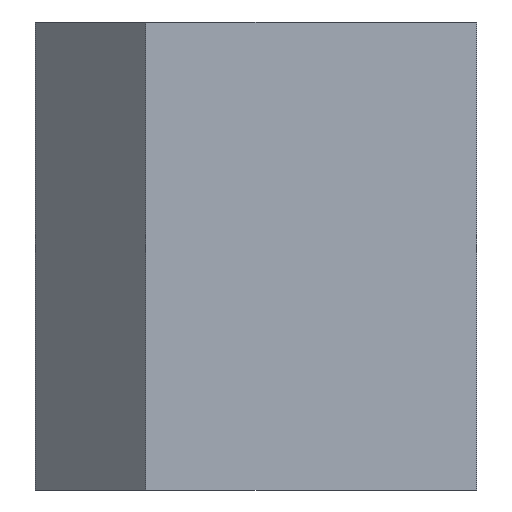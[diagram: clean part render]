
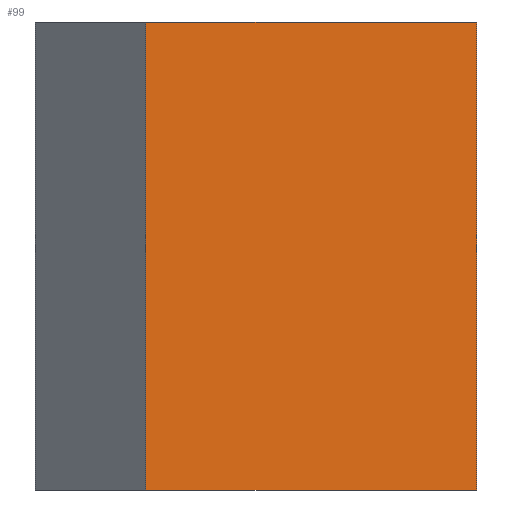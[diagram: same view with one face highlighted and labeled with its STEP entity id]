
A CAD part, front view. The second image highlights one B-rep face of the part: STEP entity #99.
In plain terms, the highlighted planar face has unit normal (0.707, -0.707, 0).
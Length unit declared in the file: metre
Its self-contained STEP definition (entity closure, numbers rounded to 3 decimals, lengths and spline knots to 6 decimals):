
#16=ORIENTED_EDGE('',*,*,#40,.F.);
#17=ORIENTED_EDGE('',*,*,#41,.T.);
#18=ORIENTED_EDGE('',*,*,#36,.T.);
#19=ORIENTED_EDGE('',*,*,#42,.F.);
#36=EDGE_CURVE('',#48,#49,#56,.T.);
#40=EDGE_CURVE('',#52,#53,#60,.T.);
#41=EDGE_CURVE('',#52,#48,#61,.T.);
#42=EDGE_CURVE('',#53,#49,#62,.T.);
#48=VERTEX_POINT('',#152);
#49=VERTEX_POINT('',#153);
#52=VERTEX_POINT('',#161);
#53=VERTEX_POINT('',#162);
#56=LINE('',#151,#68);
#60=LINE('',#160,#72);
#61=LINE('',#163,#73);
#62=LINE('',#164,#74);
#68=VECTOR('',#127,1.);
#72=VECTOR('',#133,1.);
#73=VECTOR('',#134,1.);
#74=VECTOR('',#135,1.);
#81=EDGE_LOOP('',(#16,#17,#18,#19));
#87=FACE_BOUND('',#81,.T.);
#93=PLANE('',#118);
#99=ADVANCED_FACE('',(#87),#93,.T.);
#118=AXIS2_PLACEMENT_3D('',#159,#131,#132);
#127=DIRECTION('',(0.,0.,-1.));
#131=DIRECTION('',(0.707,-0.707,0.));
#132=DIRECTION('',(0.707,0.707,0.));
#133=DIRECTION('',(0.,0.,-1.));
#134=DIRECTION('',(-0.707,-0.707,0.));
#135=DIRECTION('',(-0.707,-0.707,0.));
#151=CARTESIAN_POINT('',(0.004353,-0.001865,0.001116));
#152=CARTESIAN_POINT('',(0.004353,-0.001865,0.0008));
#153=CARTESIAN_POINT('',(0.004353,-0.001865,0.0005));
#159=CARTESIAN_POINT('',(0.004353,-0.001865,0.001116));
#160=CARTESIAN_POINT('',(0.004565,-0.001653,0.001116));
#161=CARTESIAN_POINT('',(0.004565,-0.001653,0.0008));
#162=CARTESIAN_POINT('',(0.004565,-0.001653,0.0005));
#163=CARTESIAN_POINT('',(0.004353,-0.001865,0.0008));
#164=CARTESIAN_POINT('',(0.004353,-0.001865,0.0005));
